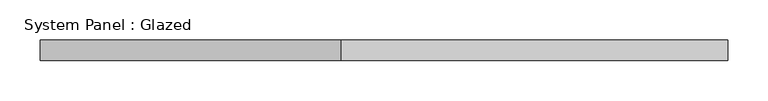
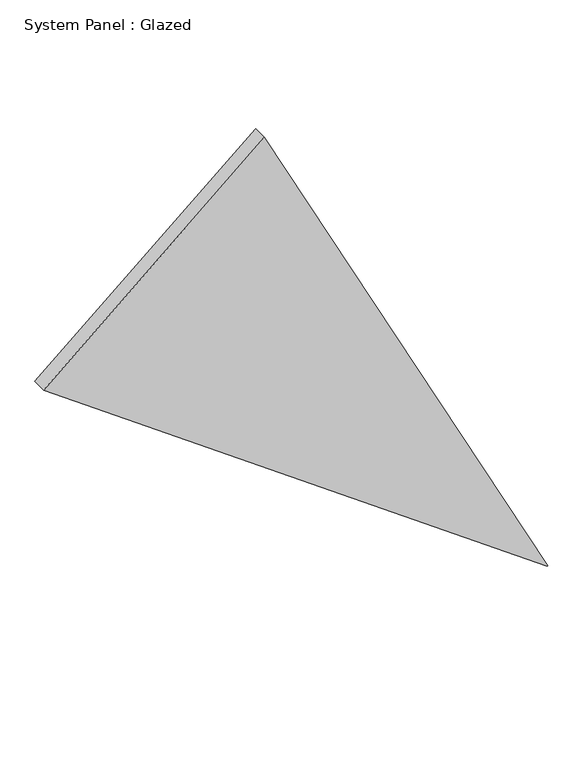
"""IFC4 building model written with IfcOpenShell, lengths in millimetres: plate geometry, System Panel : Glazed."""

from ifc_helpers import new_model, si_unit, frame, origin, place, context, project, spatial, polyline, outline, extrude, source, transform, mapped, element, save


def system_panel_glazed_2dfb7dd8(model_context):
    return source(origin(), model_context, "Body", "SweptSolid", [
        extrude(outline(polyline([(0.0, 426.46048), (0.7807725, 427.3682703), (936.9952118, -52.9203614), (614.9399248, -427.3682703), (0.0, 426.46048)])), frame((0.0, -44.45, 0.0), z_axis=(0.0, 1.0, 0.0), x_axis=(0.0, 0.0, 1.0)), (0.0, 0.0, 1.0), 25.4),
    ])


if __name__ == "__main__":
    model = new_model("IFC4")
    model_context = context("Model", 3, world=origin())
    ifc_project = project(units=[si_unit("LENGTHUNIT", "METRE", prefix="MILLI")], contexts=[model_context])
    site = spatial("IfcSite", under=ifc_project)
    building = spatial("IfcBuilding", under=site)
    placement = place(None, origin())
    system_panel_glazed_shape = system_panel_glazed_2dfb7dd8(model_context)
    element("IfcPlate", 1, ObjectType="System Panel : Glazed", at=placement, inside=building, context=model_context, shape_type="MappedRepresentation", body=[
        mapped(system_panel_glazed_shape, transform((0.0, 0.0, 0.0), x_axis=(1.0, 0.0, 0.0), y_axis=(0.0, 1.0, 0.0), z_axis=(0.0, 0.0, 1.0))),
    ])
    save(model, "model.ifc")
